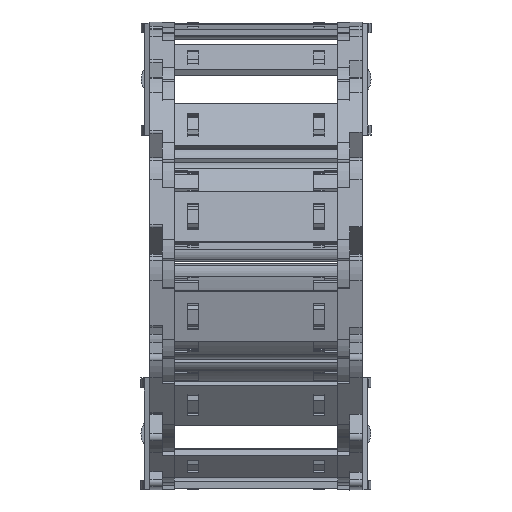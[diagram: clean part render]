
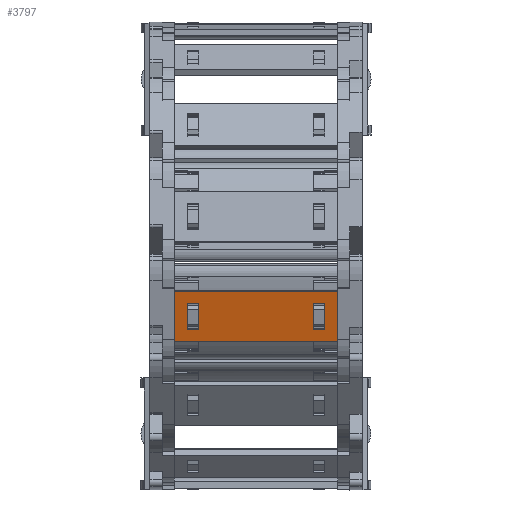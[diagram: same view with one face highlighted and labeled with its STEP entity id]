
A CAD part, top view. The second image highlights one B-rep face of the part: STEP entity #3797.
In plain terms, the highlighted planar face has unit normal (0, -0.259, 0.966) as drawn and (0, 1, 0) by its records, which use the part's own axes.
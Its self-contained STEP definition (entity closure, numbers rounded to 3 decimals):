
#2923=DIRECTION('',(0.,0.,1.));
#2924=VECTOR('',#2923,15.8);
#2925=CARTESIAN_POINT('',(35.74,1.5,-7.9));
#2926=LINE('',#2925,#2924);
#2930=DIRECTION('',(-1.,0.,0.));
#2931=VECTOR('',#2930,50.5);
#2932=CARTESIAN_POINT('',(35.74,1.5,7.9));
#2933=LINE('',#2932,#2931);
#2937=DIRECTION('',(0.,0.,-1.));
#2938=VECTOR('',#2937,15.8);
#2939=CARTESIAN_POINT('',(-14.76,1.5,7.9));
#2940=LINE('',#2939,#2938);
#2944=DIRECTION('',(1.,0.,0.));
#2945=VECTOR('',#2944,3.648);
#2946=CARTESIAN_POINT('',(28.122,1.5,4.075));
#2947=LINE('',#2946,#2945);
#2951=DIRECTION('',(0.,0.,-1.));
#2952=VECTOR('',#2951,8.15);
#2953=CARTESIAN_POINT('',(31.77,1.5,4.075));
#2954=LINE('',#2953,#2952);
#2958=DIRECTION('',(-1.,0.,0.));
#2959=VECTOR('',#2958,3.648);
#2960=CARTESIAN_POINT('',(31.77,1.5,-4.075));
#2961=LINE('',#2960,#2959);
#2965=DIRECTION('',(0.,0.,-1.));
#2966=VECTOR('',#2965,8.15);
#2967=CARTESIAN_POINT('',(-7.142,1.5,4.075));
#2968=LINE('',#2967,#2966);
#2972=DIRECTION('',(-1.,0.,0.));
#2973=VECTOR('',#2972,3.648);
#2974=CARTESIAN_POINT('',(-7.142,1.5,-4.075));
#2975=LINE('',#2974,#2973);
#2979=DIRECTION('',(0.,0.,1.));
#2980=VECTOR('',#2979,8.15);
#2981=CARTESIAN_POINT('',(-10.79,1.5,-4.075));
#2982=LINE('',#2981,#2980);
#2986=DIRECTION('',(1.,0.,0.));
#2987=VECTOR('',#2986,3.648);
#2988=CARTESIAN_POINT('',(-10.79,1.5,4.075));
#2989=LINE('',#2988,#2987);
#3000=DIRECTION('',(-1.,0.,0.));
#3001=VECTOR('',#3000,50.5);
#3002=CARTESIAN_POINT('',(35.74,1.5,-7.9));
#3003=LINE('',#3002,#3001);
#3208=DIRECTION('',(0.,0.,-1.));
#3209=VECTOR('',#3208,8.15);
#3210=CARTESIAN_POINT('',(28.122,1.5,4.075));
#3211=LINE('',#3210,#3209);
#3507=CARTESIAN_POINT('',(31.77,1.5,4.075));
#3508=VERTEX_POINT('',#3507);
#3509=CARTESIAN_POINT('',(28.122,1.5,4.075));
#3510=VERTEX_POINT('',#3509);
#3551=CARTESIAN_POINT('',(28.122,1.5,-4.075));
#3552=VERTEX_POINT('',#3551);
#3553=CARTESIAN_POINT('',(31.77,1.5,-4.075));
#3554=VERTEX_POINT('',#3553);
#3555=CARTESIAN_POINT('',(35.74,1.5,7.9));
#3557=VERTEX_POINT('',#3555);
#3559=CARTESIAN_POINT('',(35.74,1.5,-7.9));
#3560=VERTEX_POINT('',#3559);
#3583=CARTESIAN_POINT('',(-7.142,1.5,4.075));
#3584=CARTESIAN_POINT('',(-7.142,1.5,-4.075));
#3585=VERTEX_POINT('',#3583);
#3586=VERTEX_POINT('',#3584);
#3587=CARTESIAN_POINT('',(-10.79,1.5,-4.075));
#3588=VERTEX_POINT('',#3587);
#3589=CARTESIAN_POINT('',(-10.79,1.5,4.075));
#3590=VERTEX_POINT('',#3589);
#3591=CARTESIAN_POINT('',(-14.76,1.5,7.9));
#3592=VERTEX_POINT('',#3591);
#3595=CARTESIAN_POINT('',(-14.76,1.5,-7.9));
#3596=VERTEX_POINT('',#3595);
#3766=CARTESIAN_POINT('',(67.48,1.5,10.061));
#3767=DIRECTION('',(0.,-1.,0.));
#3768=DIRECTION('',(0.,0.,-1.));
#3769=AXIS2_PLACEMENT_3D('',#3766,#3767,#3768);
#3770=PLANE('',#3769);
#3771=ORIENTED_EDGE('',*,*,#3669,.T.);
#3772=ORIENTED_EDGE('',*,*,#3707,.T.);
#3773=ORIENTED_EDGE('',*,*,#3732,.T.);
#3775=ORIENTED_EDGE('',*,*,#3774,.F.);
#3776=EDGE_LOOP('',(#3771,#3772,#3773,#3775));
#3777=FACE_OUTER_BOUND('',#3776,.F.);
#3779=ORIENTED_EDGE('',*,*,#3778,.F.);
#3780=ORIENTED_EDGE('',*,*,#3608,.T.);
#3782=ORIENTED_EDGE('',*,*,#3781,.T.);
#3784=ORIENTED_EDGE('',*,*,#3783,.T.);
#3785=EDGE_LOOP('',(#3779,#3780,#3782,#3784));
#3786=FACE_BOUND('',#3785,.F.);
#3788=ORIENTED_EDGE('',*,*,#3787,.T.);
#3790=ORIENTED_EDGE('',*,*,#3789,.T.);
#3792=ORIENTED_EDGE('',*,*,#3791,.T.);
#3794=ORIENTED_EDGE('',*,*,#3793,.T.);
#3795=EDGE_LOOP('',(#3788,#3790,#3792,#3794));
#3796=FACE_BOUND('',#3795,.F.);
#3797=ADVANCED_FACE('',(#3777,#3786,#3796),#3770,.F.);
#3608=EDGE_CURVE('',#3510,#3508,#2947,.T.);
#3669=EDGE_CURVE('',#3560,#3557,#2926,.T.);
#3707=EDGE_CURVE('',#3557,#3592,#2933,.T.);
#3732=EDGE_CURVE('',#3592,#3596,#2940,.T.);
#3774=EDGE_CURVE('',#3560,#3596,#3003,.T.);
#3778=EDGE_CURVE('',#3510,#3552,#3211,.T.);
#3781=EDGE_CURVE('',#3508,#3554,#2954,.T.);
#3783=EDGE_CURVE('',#3554,#3552,#2961,.T.);
#3787=EDGE_CURVE('',#3585,#3586,#2968,.T.);
#3789=EDGE_CURVE('',#3586,#3588,#2975,.T.);
#3791=EDGE_CURVE('',#3588,#3590,#2982,.T.);
#3793=EDGE_CURVE('',#3590,#3585,#2989,.T.);
